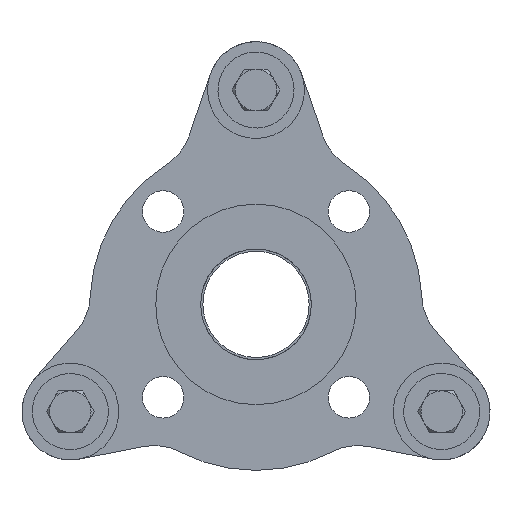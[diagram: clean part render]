
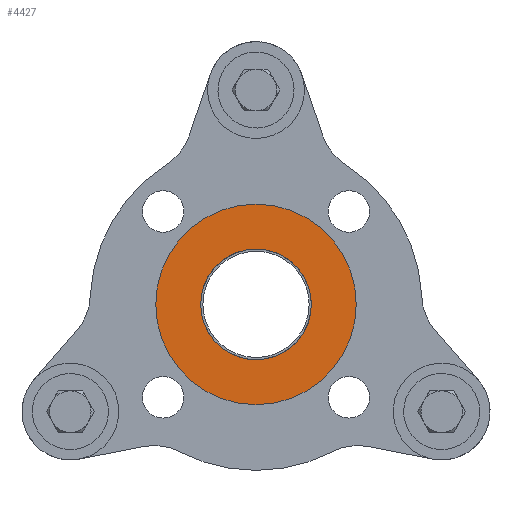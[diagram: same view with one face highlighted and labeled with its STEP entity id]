
A CAD part, front view. The second image highlights one B-rep face of the part: STEP entity #4427.
In plain terms, the highlighted planar face has unit normal (0, -1, 0).
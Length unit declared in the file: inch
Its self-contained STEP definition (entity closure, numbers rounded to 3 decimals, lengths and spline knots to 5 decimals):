
#475=PLANE('',#4789);
#622=FACE_BOUND('',#1175,.T.);
#843=FACE_OUTER_BOUND('',#1174,.T.);
#1174=EDGE_LOOP('',(#2950));
#1175=EDGE_LOOP('',(#2951));
#1717=CIRCLE('',#4785,1.);
#1718=CIRCLE('',#4787,1.8125);
#2021=VERTEX_POINT('',#6798);
#2022=VERTEX_POINT('',#6801);
#2421=EDGE_CURVE('',#2021,#2021,#1717,.T.);
#2422=EDGE_CURVE('',#2022,#2022,#1718,.T.);
#2950=ORIENTED_EDGE('',*,*,#2422,.T.);
#2951=ORIENTED_EDGE('',*,*,#2421,.T.);
#4427=ADVANCED_FACE('',(#843,#622),#475,.T.);
#4785=AXIS2_PLACEMENT_3D('',#6799,#5430,#5431);
#4787=AXIS2_PLACEMENT_3D('',#6802,#5434,#5435);
#4789=AXIS2_PLACEMENT_3D('',#6805,#5438,#5439);
#5430=DIRECTION('center_axis',(0.,1.,0.));
#5431=DIRECTION('ref_axis',(-1.,0.,0.));
#5434=DIRECTION('center_axis',(0.,-1.,0.));
#5435=DIRECTION('ref_axis',(1.,0.,0.));
#5438=DIRECTION('center_axis',(0.,-1.,0.));
#5439=DIRECTION('ref_axis',(0.,0.,1.));
#6798=CARTESIAN_POINT('',(-1.,0.,0.));
#6799=CARTESIAN_POINT('Origin',(0.,0.,
0.));
#6801=CARTESIAN_POINT('',(-1.8125,0.,0.));
#6802=CARTESIAN_POINT('Origin',(0.,0.,
0.));
#6805=CARTESIAN_POINT('Origin',(0.,0.,
0.));
